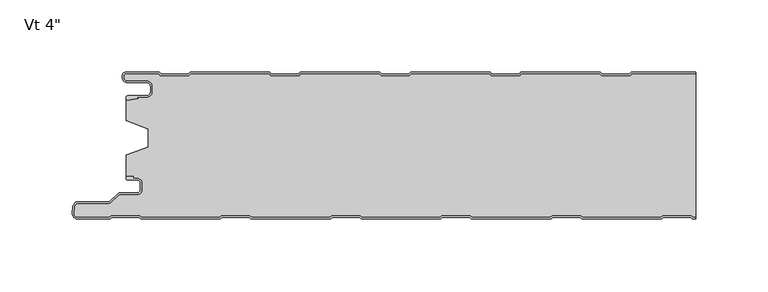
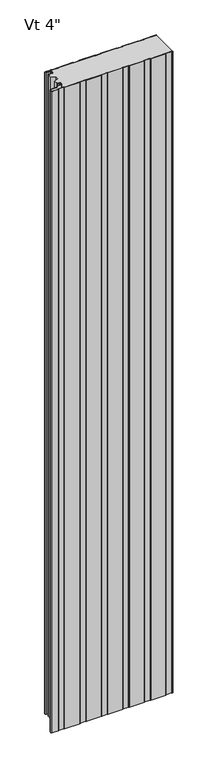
"""IFC4 building model written with IfcOpenShell, lengths in millimetres: plate geometry."""

from ifc_helpers import new_model, si_unit, point, frame, frame_2d, origin, origin_with_axes, place, context, project, spatial, polyline, circle_curve, trimmed, segment, composite_curve, outline, extrude, source, transform, mapped, element, save
from ifc_brep_helpers import plane_surface, cylinder_surface, revolved_surface, advanced_brep


def plate_60b42329(model_context):
    return source(origin(), model_context, "Body", "SolidModel", [
        extrude(outline(composite_curve([segment(polyline([(-196.9639401, -1.03e-05), (-173.8991777, -1.03e-05), (-172.6989573, -1.2002307), (-153.8919247, -1.2002307), (-152.6916939, 0.0), (-97.6993404, 0.0), (-96.4991097, -1.2002307), (-77.6920771, -1.2002307), (-76.4918463, 0.0), (-21.5159312, 0.0), (-20.3157004, -1.2002307), (-1.5086678, -1.2002307), (-0.3084371, 0.0), (54.667478, 0.0), (55.8677088, -1.2002307), (74.6747414, -1.2002307), (75.8749721, 0.0), (130.8673256, 0.0), (132.0675564, -1.2002307), (150.874589, -1.2002307), (152.0748197, 0.0), (196.6137654, 0.0), (196.6137654, -1.0), (152.4890333, -1.0), (151.2888025, -2.2002307), (131.6533428, -2.2002307), (130.4531121, -1.0), (76.2891857, -1.0), (75.0889549, -2.2002307), (55.4534952, -2.2002307), (54.2532645, -1.0), (0.1057765, -1.0), (-1.0944543, -2.2002307), (-20.729914, -2.2002307), (-21.9301447, -1.0), (-76.0776328, -1.0), (-77.2778635, -2.2002307), (-96.9133232, -2.2002307), (-98.113554, -1.0), (-152.2774804, -1.0), (-153.4777111, -2.2002307), (-173.1131708, -2.2002307), (-174.3133912, -1.0000103), (-196.9839768, -1.0000103)]), True, "CONTINUOUS"), segment(trimmed(circle_curve(frame_2d((-197.0487242, -2.3984828)), 1.3999705), [point((-196.9839768, -1.0000103))], [point((-198.4486947, -2.3984828))], True, "CARTESIAN"), True, "CONTINUOUS"), segment(polyline([(-198.4486947, -2.3984828), (-198.4486947, -3.9515996)]), True, "CONTINUOUS"), segment(trimmed(circle_curve(frame_2d((-196.2386394, -3.9515996)), 2.2100553), [point((-198.4486947, -3.9515996))], [point((-196.2386394, -6.1616549))], True, "CARTESIAN"), True, "CONTINUOUS"), segment(polyline([(-196.2386394, -6.1616549), (-182.7094114, -6.1616549)]), True, "CONTINUOUS"), segment(trimmed(circle_curve(frame_2d((-182.7094114, -9.881641)), 3.7199861), [point((-182.7094114, -6.1616549))], [point((-178.9894252, -9.881641))], False, "CARTESIAN"), True, "CONTINUOUS"), segment(polyline([(-178.9894252, -9.881641), (-178.9894252, -13.5282389)]), True, "CONTINUOUS"), segment(trimmed(circle_curve(frame_2d((-182.7094216, -13.5282389)), 3.7199964), [point((-178.9894252, -13.5282389))], [point((-182.7094216, -17.2482353))], False, "CARTESIAN"), True, "CONTINUOUS"), segment(polyline([(-182.7094216, -17.2482353), (-189.0545396, -17.2482353), (-188.8919338, -18.1704184), (-195.1454629, -19.2730843)]), True, "CONTINUOUS"), segment(trimmed(circle_curve(frame_2d((-195.4101029, -17.7722363)), 1.524001), [point((-195.1454629, -19.2730843))], [point((-195.4101029, -16.2482353))], False, "CARTESIAN"), True, "CONTINUOUS"), segment(polyline([(-195.4101029, -16.2482353), (-182.7094216, -16.2482353)]), True, "CONTINUOUS"), segment(trimmed(circle_curve(frame_2d((-182.7094216, -13.5282389)), 2.7199964), [point((-182.7094216, -16.2482353))], [point((-179.9894252, -13.5282389))], True, "CARTESIAN"), True, "CONTINUOUS"), segment(polyline([(-179.9894252, -13.5282389), (-179.9894252, -9.881641)]), True, "CONTINUOUS"), segment(trimmed(circle_curve(frame_2d((-182.7094114, -9.881641)), 2.7199861), [point((-179.9894252, -9.881641))], [point((-182.7094114, -7.1616549))], True, "CARTESIAN"), True, "CONTINUOUS"), segment(polyline([(-182.7094114, -7.1616549), (-196.2386394, -7.1616549)]), True, "CONTINUOUS"), segment(trimmed(circle_curve(frame_2d((-196.2386394, -3.9515996)), 3.2100553), [point((-196.2386394, -7.1616549))], [point((-199.4486948, -3.9515996))], False, "CARTESIAN"), True, "CONTINUOUS"), segment(polyline([(-199.4486948, -3.9515996), (-199.4486947, -2.3984828)]), True, "CONTINUOUS"), segment(trimmed(circle_curve(frame_2d((-197.0487242, -2.3984828)), 2.3999705), [point((-199.4486947, -2.3984828))], [point((-196.9639401, -1.03e-05))], False, "CARTESIAN"), True, "CONTINUOUS")], self_intersect=False)), origin_with_axes(), (0.0, 0.0, 1.0), 2400.0),
        extrude(outline(composite_curve([segment(polyline([(-195.7329864, -72.1057711), (-191.9745857, -72.1057711), (-191.9745857, -73.5042547), (-189.2754693, -73.5042547)]), True, "CONTINUOUS"), segment(trimmed(circle_curve(frame_2d((-189.2754693, -76.8542546)), 3.3499999), [point((-189.2754693, -73.5042547))], [point((-185.9254694, -76.8542546))], False, "CARTESIAN"), True, "CONTINUOUS"), segment(polyline([(-185.9254694, -76.8542546), (-185.9254694, -81.2542544)]), True, "CONTINUOUS"), segment(trimmed(circle_curve(frame_2d((-189.2754693, -81.2542544)), 3.3499999), [point((-185.9254694, -81.2542544))], [point((-189.2754693, -84.6042543))], False, "CARTESIAN"), True, "CONTINUOUS"), segment(polyline([(-189.2754693, -84.6042543), (-201.0863815, -84.6042543)]), True, "CONTINUOUS"), segment(trimmed(circle_curve(frame_2d((-201.0863815, -86.3042543)), 1.7), [point((-201.0863815, -84.6042543))], [point((-202.288463, -85.1021728))], True, "CARTESIAN"), True, "CONTINUOUS"), segment(polyline([(-202.288463, -85.1021728), (-207.029022, -89.8427317)]), True, "CONTINUOUS"), segment(trimmed(circle_curve(frame_2d((-208.8674996, -88.0042541)), 2.6), [point((-207.029022, -89.8427317))], [point((-208.8674996, -90.6042541))], False, "CARTESIAN"), True, "CONTINUOUS"), segment(polyline([(-208.8674996, -90.6042541), (-229.8742569, -90.6042541)]), True, "CONTINUOUS"), segment(trimmed(circle_curve(frame_2d((-229.8742569, -93.3042541)), 2.7), [point((-229.8742569, -90.6042541))], [point((-232.563964, -93.0687213))], True, "CARTESIAN"), True, "CONTINUOUS"), segment(polyline([(-232.563964, -93.0687213), (-232.9796492, -97.8157099)]), True, "CONTINUOUS"), segment(trimmed(circle_curve(frame_2d((-230.4287597, -98.0390867)), 2.5606512), [point((-232.9796492, -97.8157099))], [point((-230.4287597, -100.5997378))], True, "CARTESIAN"), True, "CONTINUOUS"), segment(polyline([(-230.4287597, -100.5997378), (-208.4557382, -100.5997378), (-207.2557697, -99.3997693), (-187.5363572, -99.3997693), (-186.3361265, -100.6), (-132.2559947, -100.6), (-131.055764, -99.3997693), (-111.3363515, -99.3997693), (-110.1361208, -100.6), (-56.055989, -100.6), (-54.8557583, -99.3997693), (-35.1363458, -99.3997693), (-33.9361151, -100.6), (20.1440167, -100.6), (21.3442474, -99.3997693), (41.0636599, -99.3997693), (42.2638906, -100.6), (96.3440224, -100.6), (97.5442531, -99.3997693), (117.2636656, -99.3997693), (118.4638963, -100.6), (172.5440281, -100.6), (173.7442588, -99.3997693), (193.4636713, -99.3997693), (194.663902, -100.6), (196.6137654, -100.6), (196.6137654, -101.6), (194.8333369, -101.6)]), True, "CONTINUOUS"), segment(trimmed(circle_curve(frame_2d((194.8256836, -100.2000237)), 1.3999972), [point((194.8333369, -101.6))], [point((193.7816329, -101.1327349))], False, "CARTESIAN"), True, "CONTINUOUS"), segment(polyline([(193.7816329, -101.1327349), (193.0486673, -100.3997693), (174.1579981, -100.3997693), (173.4250534, -101.132714)]), True, "CONTINUOUS"), segment(trimmed(circle_curve(frame_2d((172.3810026, -100.2000028)), 1.3999972), [point((173.4250534, -101.132714))], [point((172.3810026, -101.6))], False, "CARTESIAN"), True, "CONTINUOUS"), segment(polyline([(172.3810026, -101.6), (118.6334893, -101.6)]), True, "CONTINUOUS"), segment(trimmed(circle_curve(frame_2d((118.625836, -100.2000237)), 1.3999972), [point((118.6334893, -101.6))], [point((117.5817853, -101.1327349))], False, "CARTESIAN"), True, "CONTINUOUS"), segment(polyline([(117.5817853, -101.1327349), (116.8488197, -100.3997693), (97.9581505, -100.3997693), (97.2252058, -101.132714)]), True, "CONTINUOUS"), segment(trimmed(circle_curve(frame_2d((96.181155, -100.2000028)), 1.3999972), [point((97.2252058, -101.132714))], [point((96.181155, -101.6))], False, "CARTESIAN"), True, "CONTINUOUS"), segment(polyline([(96.181155, -101.6), (42.4336417, -101.6)]), True, "CONTINUOUS"), segment(trimmed(circle_curve(frame_2d((42.4259884, -100.2000237)), 1.3999972), [point((42.4336417, -101.6))], [point((41.3819376, -101.1327349))], False, "CARTESIAN"), True, "CONTINUOUS"), segment(polyline([(41.3819376, -101.1327349), (40.6489721, -100.3997693), (21.7583029, -100.3997693), (21.0253582, -101.132714)]), True, "CONTINUOUS"), segment(trimmed(circle_curve(frame_2d((19.9813074, -100.2000028)), 1.3999972), [point((21.0253582, -101.132714))], [point((19.9813074, -101.6))], False, "CARTESIAN"), True, "CONTINUOUS"), segment(polyline([(19.9813074, -101.6), (-33.7662059, -101.6)]), True, "CONTINUOUS"), segment(trimmed(circle_curve(frame_2d((-33.7738592, -100.2000237)), 1.3999972), [point((-33.7662059, -101.6))], [point((-34.81791, -101.1327349))], False, "CARTESIAN"), True, "CONTINUOUS"), segment(polyline([(-34.81791, -101.1327349), (-35.5508755, -100.3997693), (-54.4415447, -100.3997693), (-55.1744894, -101.132714)]), True, "CONTINUOUS"), segment(trimmed(circle_curve(frame_2d((-56.2185402, -100.2000028)), 1.3999972), [point((-55.1744894, -101.132714))], [point((-56.2185402, -101.6))], False, "CARTESIAN"), True, "CONTINUOUS"), segment(polyline([(-56.2185402, -101.6), (-109.9660535, -101.6)]), True, "CONTINUOUS"), segment(trimmed(circle_curve(frame_2d((-109.9737068, -100.2000237)), 1.3999972), [point((-109.9660535, -101.6))], [point((-111.0177576, -101.1327349))], False, "CARTESIAN"), True, "CONTINUOUS"), segment(polyline([(-111.0177576, -101.1327349), (-111.7507231, -100.3997693), (-130.6413923, -100.3997693), (-131.374337, -101.132714)]), True, "CONTINUOUS"), segment(trimmed(circle_curve(frame_2d((-132.4183878, -100.2000028)), 1.3999972), [point((-131.374337, -101.132714))], [point((-132.4183878, -101.6))], False, "CARTESIAN"), True, "CONTINUOUS"), segment(polyline([(-132.4183878, -101.6), (-186.1659011, -101.6)]), True, "CONTINUOUS"), segment(trimmed(circle_curve(frame_2d((-186.1735544, -100.2000237)), 1.3999972), [point((-186.1659011, -101.6))], [point((-187.2176052, -101.1327349))], False, "CARTESIAN"), True, "CONTINUOUS"), segment(polyline([(-187.2176052, -101.1327349), (-187.9505707, -100.3997693), (-206.8415561, -100.3997693), (-207.5742824, -101.1324955)]), True, "CONTINUOUS"), segment(trimmed(circle_curve(frame_2d((-208.6182354, -100.1998717)), 1.3998661), [point((-207.5742824, -101.1324955))], [point((-208.6182354, -101.5997378))], False, "CARTESIAN"), True, "CONTINUOUS"), segment(polyline([(-208.6182354, -101.5997378), (-230.4287597, -101.5997378)]), True, "CONTINUOUS"), segment(trimmed(circle_curve(frame_2d((-230.4287597, -98.0390867)), 3.5606512), [point((-230.4287597, -101.5997378))], [point((-233.975837, -97.7284755))], False, "CARTESIAN"), True, "CONTINUOUS"), segment(polyline([(-233.975837, -97.7284755), (-233.5601518, -92.981487)]), True, "CONTINUOUS"), segment(trimmed(circle_curve(frame_2d((-229.8742569, -93.3042541)), 3.7), [point((-233.5601518, -92.981487))], [point((-229.8742569, -89.6042541))], False, "CARTESIAN"), True, "CONTINUOUS"), segment(polyline([(-229.8742569, -89.6042541), (-208.8674996, -89.6042541)]), True, "CONTINUOUS"), segment(trimmed(circle_curve(frame_2d((-208.8674996, -88.0042541)), 1.6), [point((-208.8674996, -89.6042541))], [point((-207.7361288, -89.135625))], True, "CARTESIAN"), True, "CONTINUOUS"), segment(polyline([(-207.7361288, -89.135625), (-202.9955698, -84.395066)]), True, "CONTINUOUS"), segment(trimmed(circle_curve(frame_2d((-201.0863815, -86.3042543)), 2.7), [point((-202.9955698, -84.395066))], [point((-201.0863815, -83.6042543))], False, "CARTESIAN"), True, "CONTINUOUS"), segment(polyline([(-201.0863815, -83.6042543), (-189.2754693, -83.6042543)]), True, "CONTINUOUS"), segment(trimmed(circle_curve(frame_2d((-189.2754693, -81.2542544)), 2.3499999), [point((-189.2754693, -83.6042543))], [point((-186.9254694, -81.2542544))], True, "CARTESIAN"), True, "CONTINUOUS"), segment(polyline([(-186.9254694, -81.2542544), (-186.9254694, -76.8542546)]), True, "CONTINUOUS"), segment(trimmed(circle_curve(frame_2d((-189.2754693, -76.8542546)), 2.3499999), [point((-186.9254694, -76.8542546))], [point((-189.2754693, -74.5042547))], True, "CARTESIAN"), True, "CONTINUOUS"), segment(polyline([(-189.2754693, -74.5042547), (-195.7947883, -74.5042547)]), True, "CONTINUOUS"), segment(trimmed(circle_curve(frame_2d((-195.734501, -73.3057701)), 1.2), [point((-195.7947883, -74.5042547))], [point((-195.7329864, -72.1057711))], False, "CARTESIAN"), True, "CONTINUOUS")], self_intersect=False)), origin_with_axes(), (0.0, 0.0, 1.0), 2400.0),
        advanced_brep(
        [(-189.2754693, -73.5042547, 2400.0), (-185.9254694, -76.8542546, 2400.0), (-185.9254694, -81.2542544, 2400.0), (-189.2754693, -84.6042543, 2400.0), (-201.0863815, -84.6042543, 2400.0), (-202.288463, -85.1021728, 2400.0), (-207.029022, -89.8427317, 2400.0), (-208.8674996, -90.6042541, 2400.0), (-229.8742569, -90.6042541, 2400.0), (-232.563964, -93.0687213, 2400.0), (-232.9796492, -97.8157099, 2400.0), (-230.4287597, -100.5997378, 2400.0), (-208.4557382, -100.5997378, 2400.0), (-207.2557697, -99.3997693, 2400.0), (-187.5363572, -99.3997693, 2400.0), (-186.3361265, -100.6, 2400.0), (-132.2559947, -100.6, 2400.0), (-131.055764, -99.3997693, 2400.0), (-111.3363515, -99.3997693, 2400.0), (-110.1361208, -100.6, 2400.0), (-56.055989, -100.6, 2400.0), (-54.8557583, -99.3997693, 2400.0), (-35.1363458, -99.3997693, 2400.0), (-33.9361151, -100.6, 2400.0), (20.1440167, -100.6, 2400.0), (21.3442474, -99.3997693, 2400.0), (41.0636599, -99.3997693, 2400.0), (42.2638906, -100.6, 2400.0), (96.3440224, -100.6, 2400.0), (97.5442531, -99.3997693, 2400.0), (117.2636656, -99.3997693, 2400.0), (118.4638963, -100.6, 2400.0), (172.5440281, -100.6, 2400.0), (173.7442588, -99.3997693, 2400.0), (193.4636713, -99.3997693, 2400.0), (194.663902, -100.6, 2400.0), (196.6137654, -100.6, 2400.0), (196.6137654, -1.0, 2400.0), (152.4890333, -1.0, 2400.0), (151.2888025, -2.2002307, 2400.0), (131.6533428, -2.2002307, 2400.0), (130.4531121, -1.0, 2400.0), (76.2891857, -1.0, 2400.0), (75.0889549, -2.2002307, 2400.0), (55.4534952, -2.2002307, 2400.0), (54.2532645, -1.0, 2400.0), (0.1057765, -1.0, 2400.0), (-1.0944543, -2.2002307, 2400.0), (-20.729914, -2.2002307, 2400.0), (-21.9301447, -1.0, 2400.0), (-76.0776328, -1.0, 2400.0), (-77.2778635, -2.2002307, 2400.0), (-96.9133232, -2.2002307, 2400.0), (-98.113554, -1.0, 2400.0), (-152.2774804, -1.0, 2400.0), (-153.4777111, -2.2002307, 2400.0), (-173.1131708, -2.2002307, 2400.0), (-174.3133912, -1.0000103, 2400.0), (-196.9839768, -1.0000103, 2400.0), (-198.4486947, -2.3984828, 2400.0), (-198.4486947, -3.9515996, 2400.0), (-196.2386394, -6.1616549, 2400.0), (-182.7094114, -6.1616549, 2400.0), (-178.9894252, -9.881641, 2400.0), (-178.9894252, -13.5282389, 2400.0), (-182.7094216, -17.2482353, 2400.0), (-189.0545396, -17.2482353, 2400.0), (-188.8919338, -18.1704184, 2400.0), (-195.1454629, -19.2730843, 2400.0), (-196.5999998, -18.7244571, 2400.0), (-196.5999998, -33.5050578, 2400.0), (-181.6020466, -39.1301019, 2400.0), (-181.588281, -51.7686066, 2400.0), (-196.5999998, -57.392572, 2400.0), (-196.5999998, -72.4745591, 2400.0), (-195.7329864, -72.1057711, 2400.0), (-191.9745857, -72.1057711, 2400.0), (-191.9745857, -73.5042547, 2400.0), (-189.2754693, -73.5042547, 0.0), (-191.9745857, -73.5042547, 0.0), (-191.9745857, -72.1057711, 0.0), (-195.7329864, -72.1057711, 0.0), (-196.5999998, -72.4745591, 0.0), (-196.5999998, -57.392572, 0.0), (-181.6020466, -51.7683444, 0.0), (-181.588281, -39.1301019, 0.0), (-196.5999998, -33.5050578, 0.0), (-196.5999998, -18.7244571, 0.0), (-195.1454629, -19.2730843, 0.0), (-188.8919338, -18.1704184, 0.0), (-189.0545396, -17.2482353, 0.0), (-182.7094216, -17.2482353, 0.0), (-178.9894252, -13.5282389, 0.0), (-178.9894252, -9.881641, 0.0), (-182.7094114, -6.1616549, 0.0), (-196.2386394, -6.1616549, 0.0), (-198.4486948, -3.9515996, 0.0), (-198.4486947, -2.3984828, 0.0), (-196.9839768, -1.0000103, 0.0), (-174.3133912, -1.0000103, 0.0), (-173.1131708, -2.2002307, 0.0), (-153.4777111, -2.2002307, 0.0), (-152.2774804, -1.0, 0.0), (-98.113554, -1.0, 0.0), (-96.9133232, -2.2002307, 0.0), (-77.2778635, -2.2002307, 0.0), (-76.0776328, -1.0, 0.0), (-21.9301447, -1.0, 0.0), (-20.729914, -2.2002307, 0.0), (-1.0944543, -2.2002307, 0.0), (0.1057765, -1.0, 0.0), (54.2532645, -1.0, 0.0), (55.4534952, -2.2002307, 0.0), (75.0889549, -2.2002307, 0.0), (76.2891857, -1.0, 0.0), (130.4531121, -1.0, 0.0), (131.6533428, -2.2002307, 0.0), (151.2888025, -2.2002307, 0.0), (152.4890333, -1.0, 0.0), (196.6137654, -1.0, 0.0), (196.6137654, -100.6, 0.0), (194.663902, -100.6, 0.0), (193.4636713, -99.3997693, 0.0), (173.7442588, -99.3997693, 0.0), (172.5440281, -100.6, 0.0), (118.4638963, -100.6, 0.0), (117.2636656, -99.3997693, 0.0), (97.5442531, -99.3997693, 0.0), (96.3440224, -100.6, 0.0), (42.2638906, -100.6, 0.0), (41.0636599, -99.3997693, 0.0), (21.3442474, -99.3997693, 0.0), (20.1440167, -100.6, 0.0), (-33.9361151, -100.6, 0.0), (-35.1363458, -99.3997693, 0.0), (-54.8557583, -99.3997693, 0.0), (-56.055989, -100.6, 0.0), (-110.1361208, -100.6, 0.0), (-111.3363515, -99.3997693, 0.0), (-131.055764, -99.3997693, 0.0), (-132.2559947, -100.6, 0.0), (-186.3361265, -100.6, 0.0), (-187.5363572, -99.3997693, 0.0), (-207.2557697, -99.3997693, 0.0), (-208.4557382, -100.5997378, 0.0), (-230.4287597, -100.5997378, 0.0), (-232.9796492, -97.8157099, 0.0), (-232.563964, -93.0687213, 0.0), (-229.8742569, -90.6042541, 0.0), (-208.8674996, -90.6042541, 0.0), (-207.029022, -89.8427317, 0.0), (-202.288463, -85.1021728, 0.0), (-201.0863815, -84.6042543, 0.0), (-189.2754693, -84.6042543, 0.0), (-185.9254694, -81.2542544, 0.0), (-185.9254694, -76.8542546, 0.0)],
        [
            (0, 1, circle_curve(frame((-189.2754693, -76.8542546, 2400.0), z_axis=(0.0, 0.0, -1.0), x_axis=(-1.0, 0.0, 0.0)), 3.3499999)),
            (1, 2),
            (2, 3, circle_curve(frame((-189.2754693, -81.2542544, 2400.0), z_axis=(0.0, 0.0, -1.0), x_axis=(-1.0, 0.0, 0.0)), 3.3499999)),
            (3, 4),
            (4, 5, circle_curve(frame((-201.0863815, -86.3042543, 2400.0), z_axis=(0.0, 0.0, 1.0), x_axis=(-1.0, 0.0, 0.0)), 1.7)),
            (5, 6),
            (6, 7, circle_curve(frame((-208.8674996, -88.0042541, 2400.0), z_axis=(0.0, 0.0, -1.0), x_axis=(-1.0, 0.0, 0.0)), 2.6)),
            (7, 8),
            (8, 9, circle_curve(frame((-229.8742569, -93.3042541, 2400.0), z_axis=(0.0, 0.0, 1.0), x_axis=(-1.0, 0.0, 0.0)), 2.7)),
            (9, 10),
            (10, 11, circle_curve(frame((-230.4287597, -98.0390867, 2400.0), z_axis=(0.0, 0.0, 1.0), x_axis=(-1.0, 0.0, 0.0)), 2.5606512)),
            (11, 12),
            (12, 13),
            (13, 14),
            (14, 15),
            (15, 16),
            (16, 17),
            (17, 18),
            (18, 19),
            (19, 20),
            (20, 21),
            (21, 22),
            (22, 23),
            (23, 24),
            (24, 25),
            (25, 26),
            (26, 27),
            (27, 28),
            (28, 29),
            (29, 30),
            (30, 31),
            (31, 32),
            (32, 33),
            (33, 34),
            (34, 35),
            (35, 36),
            (36, 37),
            (37, 38),
            (38, 39),
            (39, 40),
            (40, 41),
            (41, 42),
            (42, 43),
            (43, 44),
            (44, 45),
            (45, 46),
            (46, 47),
            (47, 48),
            (48, 49),
            (49, 50),
            (50, 51),
            (51, 52),
            (52, 53),
            (53, 54),
            (54, 55),
            (55, 56),
            (56, 57),
            (57, 58),
            (58, 59, circle_curve(frame((-197.0487242, -2.3984828, 2400.0), z_axis=(0.0, 0.0, 1.0), x_axis=(-1.0, 0.0, 0.0)), 1.3999705)),
            (59, 60),
            (60, 61, circle_curve(frame((-196.2386394, -3.9515996, 2400.0), z_axis=(0.0, 0.0, 1.0), x_axis=(-1.0, 0.0, 0.0)), 2.2100553)),
            (61, 62),
            (62, 63, circle_curve(frame((-182.7094114, -9.881641, 2400.0), z_axis=(0.0, 0.0, -1.0), x_axis=(-1.0, 0.0, 0.0)), 3.7199861)),
            (63, 64),
            (64, 65, circle_curve(frame((-182.7094216, -13.5282389, 2400.0), z_axis=(0.0, 0.0, -1.0), x_axis=(-1.0, 0.0, 0.0)), 3.7199964)),
            (65, 66),
            (66, 67),
            (67, 68),
            (68, 69, circle_curve(frame((-195.4101029, -17.7722363, 2400.0), z_axis=(0.0, 0.0, -1.0), x_axis=(-1.0, 0.0, 0.0)), 1.524001)),
            (69, 70),
            (70, 71),
            (71, 72),
            (72, 73),
            (73, 74),
            (74, 75, circle_curve(frame((-195.734501, -73.3057701, 2400.0), z_axis=(0.0, 0.0, -1.0), x_axis=(-1.0, 0.0, 0.0)), 1.2)),
            (75, 76),
            (76, 77),
            (77, 0),
            (78, 79),
            (79, 80),
            (80, 81),
            (81, 82, circle_curve(frame((-195.734501, -73.3057701, 0.0), z_axis=(0.0, 0.0, 1.0), x_axis=(-1.0, 0.0, 0.0)), 1.2)),
            (82, 83),
            (83, 84),
            (84, 85),
            (85, 86),
            (86, 87),
            (87, 88, circle_curve(frame((-195.4101029, -17.7722363, 0.0), z_axis=(0.0, 0.0, 1.0), x_axis=(-1.0, 0.0, 0.0)), 1.524001)),
            (88, 89),
            (89, 90),
            (90, 91),
            (91, 92, circle_curve(frame((-182.7094216, -13.5282389, 0.0), z_axis=(0.0, 0.0, 1.0), x_axis=(-1.0, 0.0, 0.0)), 3.7199964)),
            (92, 93),
            (93, 94, circle_curve(frame((-182.7094114, -9.881641, 0.0), z_axis=(0.0, 0.0, 1.0), x_axis=(-1.0, 0.0, 0.0)), 3.7199861)),
            (94, 95),
            (95, 96, circle_curve(frame((-196.2386394, -3.9515996, 0.0), z_axis=(0.0, 0.0, -1.0), x_axis=(-1.0, 0.0, 0.0)), 2.2100553)),
            (96, 97),
            (97, 98, circle_curve(frame((-197.0487242, -2.3984828, 0.0), z_axis=(0.0, 0.0, -1.0), x_axis=(-1.0, 0.0, 0.0)), 1.3999705)),
            (98, 99),
            (99, 100),
            (100, 101),
            (101, 102),
            (102, 103),
            (103, 104),
            (104, 105),
            (105, 106),
            (106, 107),
            (107, 108),
            (108, 109),
            (109, 110),
            (110, 111),
            (111, 112),
            (112, 113),
            (113, 114),
            (114, 115),
            (115, 116),
            (116, 117),
            (117, 118),
            (118, 119),
            (119, 120),
            (120, 121),
            (121, 122),
            (122, 123),
            (123, 124),
            (124, 125),
            (125, 126),
            (126, 127),
            (127, 128),
            (128, 129),
            (129, 130),
            (130, 131),
            (131, 132),
            (132, 133),
            (133, 134),
            (134, 135),
            (135, 136),
            (136, 137),
            (137, 138),
            (138, 139),
            (139, 140),
            (140, 141),
            (141, 142),
            (142, 143),
            (143, 144),
            (144, 145),
            (145, 146, circle_curve(frame((-230.4287597, -98.0390867, 0.0), z_axis=(0.0, 0.0, -1.0), x_axis=(-1.0, 0.0, 0.0)), 2.5606512)),
            (146, 147),
            (147, 148, circle_curve(frame((-229.8742569, -93.3042541, 0.0), z_axis=(0.0, 0.0, -1.0), x_axis=(-1.0, 0.0, 0.0)), 2.7)),
            (148, 149),
            (149, 150, circle_curve(frame((-208.8674996, -88.0042541, 0.0), z_axis=(0.0, 0.0, 1.0), x_axis=(-1.0, 0.0, 0.0)), 2.6)),
            (150, 151),
            (151, 152, circle_curve(frame((-201.0863815, -86.3042543, 0.0), z_axis=(0.0, 0.0, -1.0), x_axis=(-1.0, 0.0, 0.0)), 1.7)),
            (152, 153),
            (153, 154, circle_curve(frame((-189.2754693, -81.2542544, 0.0), z_axis=(0.0, 0.0, 1.0), x_axis=(-1.0, 0.0, 0.0)), 3.3499999)),
            (154, 155),
            (155, 78, circle_curve(frame((-189.2754693, -76.8542546, 0.0), z_axis=(0.0, 0.0, 1.0), x_axis=(-1.0, 0.0, 0.0)), 3.3499999)),
            (62, 94),
            (93, 63),
            (61, 95),
            (60, 96),
            (59, 97),
            (58, 98),
            (57, 99),
            (56, 100),
            (55, 101),
            (54, 102),
            (53, 103),
            (52, 104),
            (51, 105),
            (50, 106),
            (49, 107),
            (48, 108),
            (47, 109),
            (46, 110),
            (45, 111),
            (44, 112),
            (43, 113),
            (42, 114),
            (41, 115),
            (40, 116),
            (39, 117),
            (38, 118),
            (37, 119),
            (70, 86),
            (85, 71),
            (69, 87),
            (68, 88),
            (67, 89),
            (66, 90),
            (65, 91),
            (64, 92),
            (84, 72),
            (0, 78),
            (155, 1),
            (77, 79),
            (76, 80),
            (75, 81),
            (74, 82),
            (10, 146),
            (145, 11),
            (9, 147),
            (8, 148),
            (7, 149),
            (6, 150),
            (5, 151),
            (4, 152),
            (3, 153),
            (2, 154),
            (73, 83),
            (144, 12),
            (13, 143),
            (142, 14),
            (141, 15),
            (140, 16),
            (17, 139),
            (138, 18),
            (137, 19),
            (136, 20),
            (21, 135),
            (134, 22),
            (133, 23),
            (132, 24),
            (25, 131),
            (130, 26),
            (129, 27),
            (128, 28),
            (29, 127),
            (126, 30),
            (125, 31),
            (124, 32),
            (33, 123),
            (122, 34),
            (121, 35),
            (120, 36),
        ],
        [
            plane_surface(frame((336.2637657, -100.6, 2400.0), z_axis=(0.0, 0.0, 1.0), x_axis=(0.0, -1.0, 0.0))),
            plane_surface(frame((336.2637657, -100.6, 0.0), z_axis=(0.0, 0.0, -1.0), x_axis=(0.0, -1.0, 0.0))),
            revolved_surface(polyline([(-186.4293975, -9.881641, 0.0), (-186.4293975, -9.881641, 2400.0)]), (-182.7094114, -9.881641, 2400.0), (0.0, 0.0, -1.0)),
            plane_surface(frame((-182.7094114, -6.1616549, 2400.0), z_axis=(0.0, -1.0, 0.0), x_axis=(0.0, 0.0, -1.0))),
            cylinder_surface(frame((-196.2386394, -3.9515996, 2400.0), z_axis=(0.0, 0.0, 1.0), x_axis=(-1.0, 0.0, 0.0)), 2.2100553),
            plane_surface(frame((-198.4486947, -3.9515996, 2400.0), z_axis=(-1.0, 0.0, 0.0), x_axis=(0.0, 0.0, -1.0))),
            cylinder_surface(frame((-197.0487242, -2.3984828, 2400.0), z_axis=(0.0, 0.0, 1.0), x_axis=(-1.0, 0.0, 0.0)), 1.3999705),
            plane_surface(frame((-196.9839768, -1.0000103, 2400.0), z_axis=(0.0, 1.0, 0.0), x_axis=(0.0, 0.0, -1.0))),
            plane_surface(frame((-174.3133912, -1.0000103, 2400.0), z_axis=(0.7071067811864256, 0.7071067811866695, 0.0), x_axis=(0.0, 0.0, -1.0))),
            plane_surface(frame((-163.295441, -2.2002307, 2400.0), z_axis=(0.0, 1.0, 0.0), x_axis=(0.0, 0.0, -1.0))),
            plane_surface(frame((-153.4777111, -2.2002307, 2400.0), z_axis=(-0.7071067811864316, 0.7071067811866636, 0.0), x_axis=(0.0, 0.0, -1.0))),
            plane_surface(frame((-152.2774804, -1.0, 2400.0), z_axis=(0.0, 1.0, 0.0), x_axis=(0.0, 0.0, -1.0))),
            plane_surface(frame((-98.113554, -1.0, 2400.0), z_axis=(0.7071067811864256, 0.7071067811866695, 0.0), x_axis=(0.0, 0.0, -1.0))),
            plane_surface(frame((-87.0955934, -2.2002307, 2400.0), z_axis=(0.0, 1.0, 0.0), x_axis=(0.0, 0.0, -1.0))),
            plane_surface(frame((-77.2778635, -2.2002307, 2400.0), z_axis=(-0.7071067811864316, 0.7071067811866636, 0.0), x_axis=(0.0, 0.0, -1.0))),
            plane_surface(frame((-76.0776328, -1.0, 2400.0), z_axis=(0.0, 1.0, 0.0), x_axis=(0.0, 0.0, -1.0))),
            plane_surface(frame((-21.9301447, -1.0, 2400.0), z_axis=(0.7071067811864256, 0.7071067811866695, 0.0), x_axis=(0.0, 0.0, -1.0))),
            plane_surface(frame((-10.9121841, -2.2002307, 2400.0), z_axis=(0.0, 1.0, 0.0), x_axis=(0.0, 0.0, -1.0))),
            plane_surface(frame((-1.0944543, -2.2002307, 2400.0), z_axis=(-0.7071067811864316, 0.7071067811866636, 0.0), x_axis=(0.0, 0.0, -1.0))),
            plane_surface(frame((0.1057765, -1.0, 2400.0), z_axis=(0.0, 1.0, 0.0), x_axis=(0.0, 0.0, -1.0))),
            plane_surface(frame((54.2532645, -1.0, 2400.0), z_axis=(0.7071067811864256, 0.7071067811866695, 0.0), x_axis=(0.0, 0.0, -1.0))),
            plane_surface(frame((65.2712251, -2.2002307, 2400.0), z_axis=(0.0, 1.0, 0.0), x_axis=(0.0, 0.0, -1.0))),
            plane_surface(frame((75.0889549, -2.2002307, 2400.0), z_axis=(-0.7071067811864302, 0.7071067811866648, 0.0), x_axis=(0.0, 0.0, -1.0))),
            plane_surface(frame((76.2891857, -1.0, 2400.0), z_axis=(0.0, 1.0, 0.0), x_axis=(0.0, 0.0, -1.0))),
            plane_surface(frame((130.4531121, -1.0, 2400.0), z_axis=(0.7071067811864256, 0.7071067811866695, 0.0), x_axis=(0.0, 0.0, -1.0))),
            plane_surface(frame((141.4710727, -2.2002307, 2400.0), z_axis=(0.0, 1.0, 0.0), x_axis=(0.0, 0.0, -1.0))),
            plane_surface(frame((151.2888025, -2.2002307, 2400.0), z_axis=(-0.7071067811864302, 0.7071067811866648, 0.0), x_axis=(0.0, 0.0, -1.0))),
            plane_surface(frame((152.4890333, -1.0, 2400.0), z_axis=(0.0, 1.0, 0.0), x_axis=(0.0, 0.0, -1.0))),
            plane_surface(frame((-181.6020466, -39.1301019, 2400.0), z_axis=(-0.35116785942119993, -0.9363125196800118, 0.0), x_axis=(0.0, 0.0, -1.0))),
            plane_surface(frame((-196.5999998, -33.5050578, 2400.0), z_axis=(-1.0, 0.0, 0.0), x_axis=(0.0, 0.0, -1.0))),
            revolved_surface(polyline([(-196.9341039, -17.7722363, 0.0), (-196.9341039, -17.7722363, 2400.0)]), (-195.4101029, -17.7722363, 2400.0), (0.0, 0.0, -1.0)),
            plane_surface(frame((-195.1454629, -19.2730843, 2400.0), z_axis=(-0.17364817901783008, 0.9848077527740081, 0.0), x_axis=(0.0, 0.0, -1.0))),
            plane_surface(frame((-188.8919338, -18.1704184, 2400.0), z_axis=(-0.9848077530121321, -0.17364817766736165, 0.0), x_axis=(0.0, 0.0, -1.0))),
            plane_surface(frame((-189.0545396, -17.2482353, 2400.0), z_axis=(0.0, 1.0, 0.0), x_axis=(0.0, 0.0, -1.0))),
            revolved_surface(polyline([(-186.42941800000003, -13.5282389, 0.0), (-186.42941800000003, -13.5282389, 2400.0)]), (-182.7094216, -13.5282389, 2400.0), (0.0, 0.0, -1.0)),
            plane_surface(frame((-178.9894252, -13.5282389, 2400.0), z_axis=(-1.0, 0.0, 0.0), x_axis=(0.0, 0.0, -1.0))),
            plane_surface(frame((-181.588281, -51.7686066, 2400.0), z_axis=(-1.0, 0.0, 0.0), x_axis=(0.0, 0.0, -1.0))),
            revolved_surface(polyline([(-192.6254692, -76.8542546, 0.0), (-192.6254692, -76.8542546, 2400.0)]), (-189.2754693, -76.8542546, 2400.0), (0.0, 0.0, -1.0)),
            plane_surface(frame((-189.2754693, -73.5042547, 2400.0), z_axis=(0.0, -1.0, 0.0), x_axis=(0.0, 0.0, -1.0))),
            plane_surface(frame((-191.9745857, -73.5042547, 2400.0), z_axis=(-1.0, 0.0, 0.0), x_axis=(0.0, 0.0, -1.0))),
            plane_surface(frame((-191.9745857, -72.1057711, 2400.0), z_axis=(0.0, -1.0, 0.0), x_axis=(0.0, 0.0, -1.0))),
            revolved_surface(polyline([(-196.93450099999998, -73.3057701, 0.0), (-196.93450099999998, -73.3057701, 2400.0)]), (-195.734501, -73.3057701, 2400.0), (0.0, 0.0, -1.0)),
            cylinder_surface(frame((-230.4287597, -98.0390867, 2400.0), z_axis=(0.0, 0.0, 1.0), x_axis=(-1.0, 0.0, 0.0)), 2.5606512),
            plane_surface(frame((-232.9796492, -97.8157099, 2400.0), z_axis=(-0.9961878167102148, 0.08723436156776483, 0.0), x_axis=(0.0, 0.0, -1.0))),
            cylinder_surface(frame((-229.8742569, -93.3042541, 2400.0), z_axis=(0.0, 0.0, 1.0), x_axis=(-1.0, 0.0, 0.0)), 2.7),
            plane_surface(frame((-229.8742569, -90.6042541, 2400.0), z_axis=(0.0, 1.0, 0.0), x_axis=(0.0, 0.0, -1.0))),
            revolved_surface(polyline([(-211.4674996, -88.0042541, 0.0), (-211.4674996, -88.0042541, 2400.0)]), (-208.8674996, -88.0042541, 2400.0), (0.0, 0.0, -1.0)),
            plane_surface(frame((-207.029022, -89.8427317, 2400.0), z_axis=(-0.7071067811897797, 0.7071067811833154, 0.0), x_axis=(0.0, 0.0, -1.0))),
            cylinder_surface(frame((-201.0863815, -86.3042543, 2400.0), z_axis=(0.0, 0.0, 1.0), x_axis=(-1.0, 0.0, 0.0)), 1.7),
            plane_surface(frame((-201.0863815, -84.6042543, 2400.0), z_axis=(0.0, 1.0, 0.0), x_axis=(0.0, 0.0, -1.0))),
            revolved_surface(polyline([(-192.6254692, -81.2542544, 0.0), (-192.6254692, -81.2542544, 2400.0)]), (-189.2754693, -81.2542544, 2400.0), (0.0, 0.0, -1.0)),
            plane_surface(frame((-185.9254694, -81.2542544, 2400.0), z_axis=(-1.0, 0.0, 0.0), x_axis=(0.0, 0.0, -1.0))),
            plane_surface(frame((-196.5999998, -72.4745591, 2400.0), z_axis=(-1.0, 0.0, 0.0), x_axis=(0.0, 0.0, -1.0))),
            plane_surface(frame((-196.5999998, -57.392572, 2400.0), z_axis=(-0.3511231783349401, 0.9363292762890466, 0.0), x_axis=(0.0, 0.0, -1.0))),
            plane_surface(frame((-208.4557382, -100.5997378, 2400.0), z_axis=(0.0, -1.0, 0.0), x_axis=(0.0, 0.0, -1.0))),
            plane_surface(frame((-187.5363572, -99.3997693, 2400.0), z_axis=(0.0, -1.0, 0.0), x_axis=(0.0, 0.0, -1.0))),
            plane_surface(frame((-207.2557697, -99.3997693, 2400.0), z_axis=(0.7071067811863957, -0.7071067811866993, 0.0), x_axis=(0.0, 0.0, -1.0))),
            plane_surface(frame((-186.3361265, -100.6, 2400.0), z_axis=(-0.7071067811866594, -0.7071067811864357, 0.0), x_axis=(0.0, 0.0, -1.0))),
            plane_surface(frame((-132.2559947, -100.6, 2400.0), z_axis=(0.0, -1.0, 0.0), x_axis=(0.0, 0.0, -1.0))),
            plane_surface(frame((-111.3363515, -99.3997693, 2400.0), z_axis=(0.0, -1.0, 0.0), x_axis=(0.0, 0.0, -1.0))),
            plane_surface(frame((-131.055764, -99.3997693, 2400.0), z_axis=(0.7071067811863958, -0.7071067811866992, 0.0), x_axis=(0.0, 0.0, -1.0))),
            plane_surface(frame((-110.1361208, -100.6, 2400.0), z_axis=(-0.7071067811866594, -0.7071067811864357, 0.0), x_axis=(0.0, 0.0, -1.0))),
            plane_surface(frame((-56.055989, -100.6, 2400.0), z_axis=(0.0, -1.0, 0.0), x_axis=(0.0, 0.0, -1.0))),
            plane_surface(frame((-35.1363458, -99.3997693, 2400.0), z_axis=(0.0, -1.0, 0.0), x_axis=(0.0, 0.0, -1.0))),
            plane_surface(frame((-54.8557583, -99.3997693, 2400.0), z_axis=(0.7071067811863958, -0.7071067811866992, 0.0), x_axis=(0.0, 0.0, -1.0))),
            plane_surface(frame((-33.9361151, -100.6, 2400.0), z_axis=(-0.7071067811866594, -0.7071067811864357, 0.0), x_axis=(0.0, 0.0, -1.0))),
            plane_surface(frame((20.1440167, -100.6, 2400.0), z_axis=(0.0, -1.0, 0.0), x_axis=(0.0, 0.0, -1.0))),
            plane_surface(frame((41.0636599, -99.3997693, 2400.0), z_axis=(0.0, -1.0, 0.0), x_axis=(0.0, 0.0, -1.0))),
            plane_surface(frame((21.3442474, -99.3997693, 2400.0), z_axis=(0.7071067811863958, -0.7071067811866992, 0.0), x_axis=(0.0, 0.0, -1.0))),
            plane_surface(frame((42.2638906, -100.6, 2400.0), z_axis=(-0.7071067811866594, -0.7071067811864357, 0.0), x_axis=(0.0, 0.0, -1.0))),
            plane_surface(frame((96.3440224, -100.6, 2400.0), z_axis=(0.0, -1.0, 0.0), x_axis=(0.0, 0.0, -1.0))),
            plane_surface(frame((117.2636656, -99.3997693, 2400.0), z_axis=(0.0, -1.0, 0.0), x_axis=(0.0, 0.0, -1.0))),
            plane_surface(frame((97.5442531, -99.3997693, 2400.0), z_axis=(0.7071067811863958, -0.7071067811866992, 0.0), x_axis=(0.0, 0.0, -1.0))),
            plane_surface(frame((118.4638963, -100.6, 2400.0), z_axis=(-0.7071067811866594, -0.7071067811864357, 0.0), x_axis=(0.0, 0.0, -1.0))),
            plane_surface(frame((172.5440281, -100.6, 2400.0), z_axis=(0.0, -1.0, 0.0), x_axis=(0.0, 0.0, -1.0))),
            plane_surface(frame((193.4636713, -99.3997693, 2400.0), z_axis=(0.0, -1.0, 0.0), x_axis=(0.0, 0.0, -1.0))),
            plane_surface(frame((173.7442588, -99.3997693, 2400.0), z_axis=(0.7071067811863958, -0.7071067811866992, 0.0), x_axis=(0.0, 0.0, -1.0))),
            plane_surface(frame((194.663902, -100.6, 2400.0), z_axis=(-0.7071067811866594, -0.7071067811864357, 0.0), x_axis=(0.0, 0.0, -1.0))),
            plane_surface(frame((248.7440338, -100.6, 2400.0), z_axis=(0.0, -1.0, 0.0), x_axis=(0.0, 0.0, -1.0))),
            plane_surface(frame((196.6137654, -113.6, 2400.0), z_axis=(1.0, 0.0, 0.0), x_axis=(0.0, 0.0, -1.0))),
        ],
        [
            (0, [[1, 2, 3, 4, 5, 6, 7, 8, 9, 10, 11, 12, 13, 14, 15, 16, 17, 18, 19, 20, 21, 22, 23, 24, 25, 26, 27, 28, 29, 30, 31, 32, 33, 34, 35, 36, 37, 38, 39, 40, 41, 42, 43, 44, 45, 46, 47, 48, 49, 50, 51, 52, 53, 54, 55, 56, 57, 58, 59, 60, 61, 62, 63, 64, 65, 66, 67, 68, 69, 70, 71, 72, 73, 74, 75, 76, 77, 78]]),
            (1, [[79, 80, 81, 82, 83, 84, 85, 86, 87, 88, 89, 90, 91, 92, 93, 94, 95, 96, 97, 98, 99, 100, 101, 102, 103, 104, 105, 106, 107, 108, 109, 110, 111, 112, 113, 114, 115, 116, 117, 118, 119, 120, 121, 122, 123, 124, 125, 126, 127, 128, 129, 130, 131, 132, 133, 134, 135, 136, 137, 138, 139, 140, 141, 142, 143, 144, 145, 146, 147, 148, 149, 150, 151, 152, 153, 154, 155, 156]]),
            (2, [[157, -94, 158, -63]]),
            (3, [[159, -95, -157, -62]]),
            (4, [[160, -96, -159, -61]]),
            (5, [[161, -97, -160, -60]]),
            (6, [[162, -98, -161, -59]]),
            (7, [[163, -99, -162, -58]]),
            (8, [[164, -100, -163, -57]]),
            (9, [[165, -101, -164, -56]]),
            (10, [[166, -102, -165, -55]]),
            (11, [[167, -103, -166, -54]]),
            (12, [[168, -104, -167, -53]]),
            (13, [[169, -105, -168, -52]]),
            (14, [[170, -106, -169, -51]]),
            (15, [[171, -107, -170, -50]]),
            (16, [[172, -108, -171, -49]]),
            (17, [[173, -109, -172, -48]]),
            (18, [[174, -110, -173, -47]]),
            (19, [[175, -111, -174, -46]]),
            (20, [[176, -112, -175, -45]]),
            (21, [[177, -113, -176, -44]]),
            (22, [[178, -114, -177, -43]]),
            (23, [[179, -115, -178, -42]]),
            (24, [[180, -116, -179, -41]]),
            (25, [[181, -117, -180, -40]]),
            (26, [[182, -118, -181, -39]]),
            (27, [[-38, 183, -119, -182]]),
            (28, [[184, -86, 185, -71]]),
            (29, [[186, -87, -184, -70]]),
            (30, [[187, -88, -186, -69]]),
            (31, [[188, -89, -187, -68]]),
            (32, [[189, -90, -188, -67]]),
            (33, [[190, -91, -189, -66]]),
            (34, [[191, -92, -190, -65]]),
            (35, [[-158, -93, -191, -64]]),
            (36, [[-185, -85, 192, -72]]),
            (37, [[193, -156, 194, -1]]),
            (38, [[195, -79, -193, -78]]),
            (39, [[196, -80, -195, -77]]),
            (40, [[197, -81, -196, -76]]),
            (41, [[198, -82, -197, -75]]),
            (42, [[199, -146, 200, -11]]),
            (43, [[201, -147, -199, -10]]),
            (44, [[202, -148, -201, -9]]),
            (45, [[203, -149, -202, -8]]),
            (46, [[204, -150, -203, -7]]),
            (47, [[205, -151, -204, -6]]),
            (48, [[206, -152, -205, -5]]),
            (49, [[207, -153, -206, -4]]),
            (50, [[208, -154, -207, -3]]),
            (51, [[-194, -155, -208, -2]]),
            (52, [[209, -83, -198, -74]]),
            (53, [[-192, -84, -209, -73]]),
            (54, [[-200, -145, 210, -12]]),
            (55, [[211, -143, 212, -14]]),
            (56, [[-210, -144, -211, -13]]),
            (57, [[-212, -142, 213, -15]]),
            (58, [[-213, -141, 214, -16]]),
            (59, [[215, -139, 216, -18]]),
            (60, [[-214, -140, -215, -17]]),
            (61, [[-216, -138, 217, -19]]),
            (62, [[-217, -137, 218, -20]]),
            (63, [[219, -135, 220, -22]]),
            (64, [[-218, -136, -219, -21]]),
            (65, [[-220, -134, 221, -23]]),
            (66, [[-221, -133, 222, -24]]),
            (67, [[223, -131, 224, -26]]),
            (68, [[-222, -132, -223, -25]]),
            (69, [[-224, -130, 225, -27]]),
            (70, [[-225, -129, 226, -28]]),
            (71, [[227, -127, 228, -30]]),
            (72, [[-226, -128, -227, -29]]),
            (73, [[-228, -126, 229, -31]]),
            (74, [[-229, -125, 230, -32]]),
            (75, [[231, -123, 232, -34]]),
            (76, [[-230, -124, -231, -33]]),
            (77, [[-232, -122, 233, -35]]),
            (78, [[-121, 234, -36, -233]]),
            (79, [[-234, -120, -183, -37]]),
        ],
    ),
    ])


if __name__ == "__main__":
    model = new_model("IFC4")
    model_context = context("Model", 3, world=origin())
    ifc_project = project(units=[si_unit("LENGTHUNIT", "METRE", prefix="MILLI")], contexts=[model_context])
    site = spatial("IfcSite", under=ifc_project)
    building = spatial("IfcBuilding", under=site)
    placement = place(None, origin())
    plate_shape = plate_60b42329(model_context)
    element("IfcPlate", 1, ObjectType="KIP-42-KRHF-R19-CP-Vt-SL_SL : Vt 4\"", at=placement, inside=building, context=model_context, shape_type="MappedRepresentation", body=[
        mapped(plate_shape, transform((0.0, 0.0, 0.0), x_axis=(1.0, 0.0, 0.0), y_axis=(0.0, 1.0, 0.0), z_axis=(0.0, 0.0, 1.0))),
    ])
    save(model, "model.ifc")
